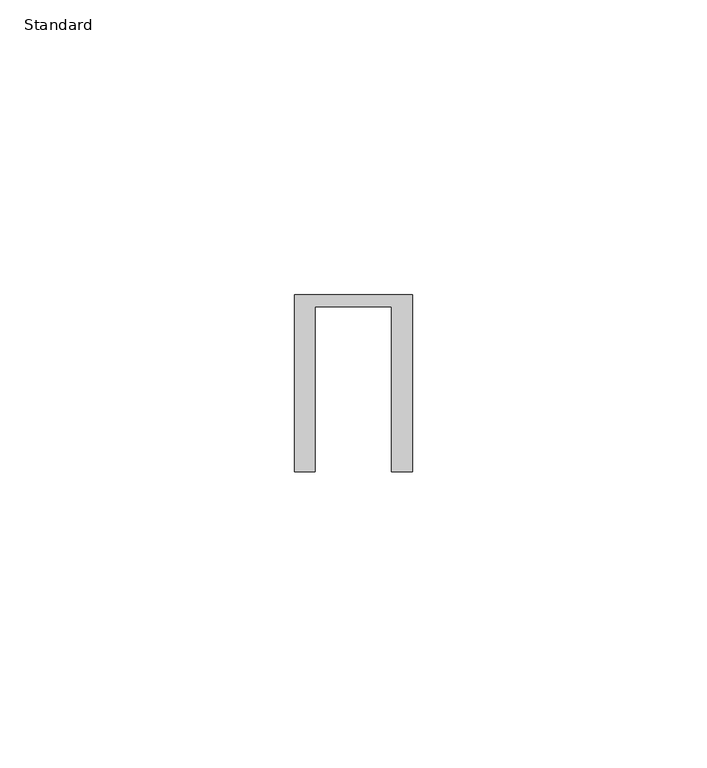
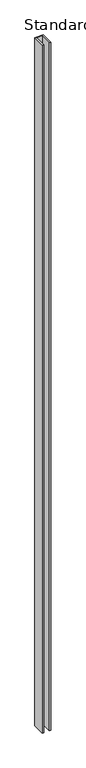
"""IFC4 building model written with IfcOpenShell, lengths in millimetres: furniture geometry, X_Partition-Channel-Duracube-Corner : Standard."""

from ifc_helpers import new_model, si_unit, frame, origin, place, context, project, spatial, polyline, outline, extrude, source, transform, mapped, element, save


def standard_a495ee6c(model_context):
    return source(origin(), model_context, "Body", "SweptSolid", [
        extrude(outline(polyline([(21.4503264, 0.0), (21.4503264, 30.0), (41.4503264, 30.0), (41.4503264, 0.0), (37.9503264, 0.0), (37.9503264, 28.0), (24.9503264, 28.0), (24.9503264, 0.0), (21.4503264, 0.0)])), frame((0.0, 0.0, 200.0), z_axis=(0.0, 0.0, 1.0), x_axis=(1.0, 0.0, 0.0)), (0.0, 0.0, 1.0), 1700.0),
    ])


if __name__ == "__main__":
    model = new_model("IFC4")
    model_context = context("Model", 3, world=origin())
    ifc_project = project(units=[si_unit("LENGTHUNIT", "METRE", prefix="MILLI")], contexts=[model_context])
    site = spatial("IfcSite", under=ifc_project)
    building = spatial("IfcBuilding", under=site)
    placement = place(None, origin())
    standard_shape = standard_a495ee6c(model_context)
    element("IfcFurniture", 1, ObjectType="X_Partition-Channel-Duracube-Corner : Standard", at=placement, inside=building, context=model_context, shape_type="MappedRepresentation", body=[
        mapped(standard_shape, transform((0.0, 0.0, 0.0), x_axis=(1.0, 0.0, 0.0), y_axis=(0.0, 1.0, 0.0), z_axis=(0.0, 0.0, 1.0))),
    ])
    save(model, "model.ifc")
